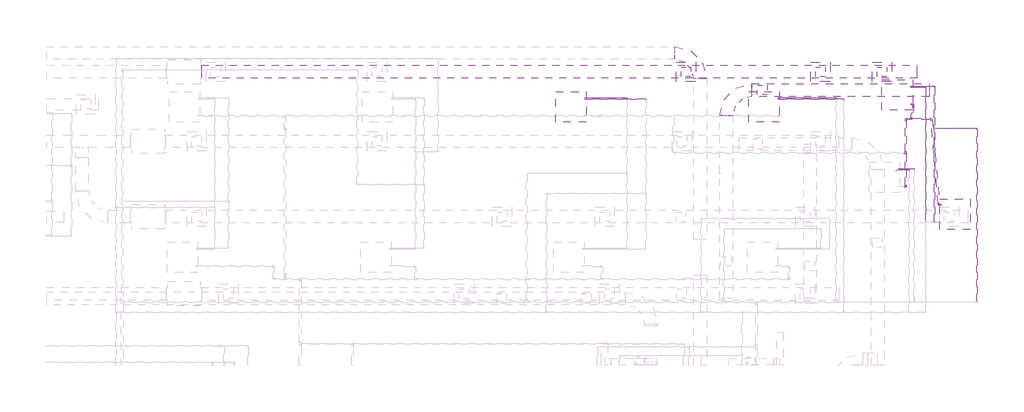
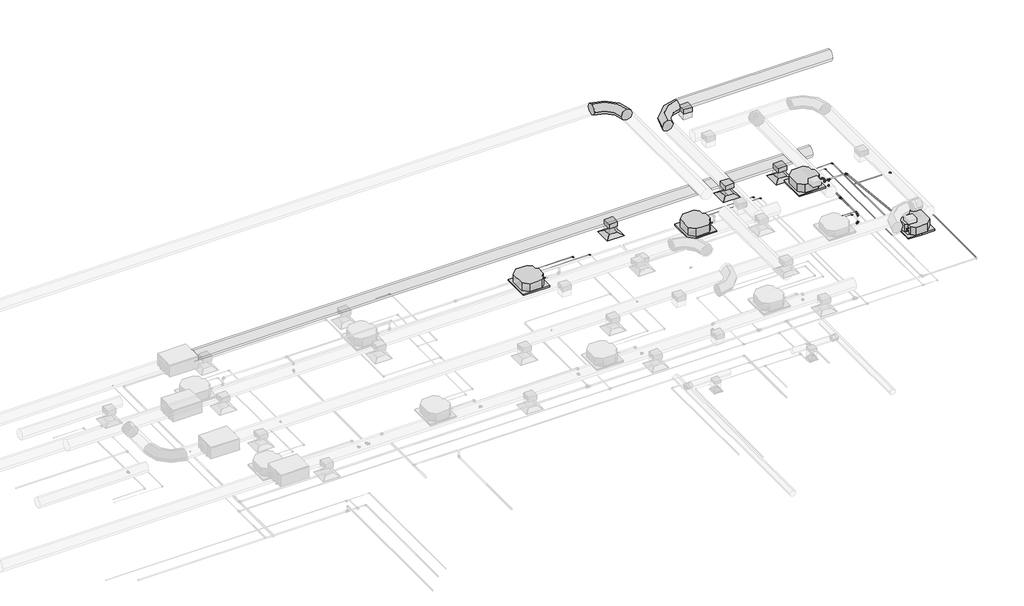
# One storey, part 21 of 21: 31 pipe fittings, 23 pipe segments, 6 duct fittings, 6 duct segments, 4 proxies, 3 air terminals.
"""IFC4 building model written with IfcOpenShell, lengths in millimetres."""

from ifc_helpers import new_model, si_unit, point, frame, frame_2d, origin, place, context, project, spatial, polyline, circle_curve, trimmed, segment, composite_curve, outline, extrude, transform, mapped, element, save
from components import air_terminal_ff221211, mechanical_equipment_53173f38, duct_fitting_95c1ddea, duct_fitting_2_d_33ab650d, pipe_fitting_144f4440, pipe_fitting_14eb6376, pipe_fitting_5aefb692, pipe_fitting_074f5d0f, pipe_fitting_57c65eee, pipe_fitting_a769a936, pipe_fitting_c900cfc2, pipe_fitting_16c020f5, pipe_fitting_fc585682, pipe_fitting_0e110a5f, pipe_fitting_afe73776, pipe_fitting_d3e019f1, pipe_fitting_501e5992, pipe_fitting_59d1f3e3, pipe_fitting_648138cd, pipe_fitting_b0e77d1d, pipe_fitting_c180495a

model = new_model("IFC4")

# Units and contexts
model_context = context("Model", 3, world=origin())
ifc_project = project(units=[si_unit("LENGTHUNIT", "METRE", prefix="MILLI")], contexts=[model_context])

# Site, building, storey
site = spatial("IfcSite", under=ifc_project)
building = spatial("IfcBuilding", under=site)
storey = spatial("IfcBuildingStorey", under=building, Name="Nível 1", Elevation=0.0)

# Air terminals
placement = place(None, origin())
air_terminal_shape = air_terminal_ff221211(model_context)
element("IfcAirTerminal", 1, ObjectType="M_Difusor de retorno : 600 x 600 Face 300 x 300 Conexão", at=placement, inside=storey, context=model_context, shape_type="MappedRepresentation", body=[
    mapped(air_terminal_shape, transform((25939.8406645, 9183.4261027, 3000.0), x_axis=(0.0, -1.0, 0.0), y_axis=(1.0, 0.0, 0.0), z_axis=(0.0, 0.0, 1.0))),
])
element("IfcAirTerminal", 2, ObjectType="M_Difusor de retorno : 600 x 600 Face 300 x 300 Conexão", at=placement, inside=storey, context=model_context, shape_type="MappedRepresentation", body=[
    mapped(air_terminal_shape, transform((21765.5206341, 9183.4261027, 3000.0), x_axis=(0.0, -1.0, 0.0), y_axis=(1.0, 0.0, 0.0), z_axis=(0.0, 0.0, 1.0))),
])
element("IfcAirTerminal", 3, ObjectType="M_Difusor de retorno : 600 x 600 Face 300 x 300 Conexão", at=placement, inside=storey, context=model_context, shape_type="MappedRepresentation", body=[
    mapped(air_terminal_shape, transform((27849.9180766, 9183.4261027, 3000.0), x_axis=(0.0, -1.0, 0.0), y_axis=(1.0, 0.0, 0.0), z_axis=(0.0, 0.0, 1.0))),
])

# Proxies
mechanical_equipment_shape = mechanical_equipment_53173f38(model_context)
element("IfcBuildingElementProxy", 4, Name="Midea_VRF_Indoor_4-way Cassette_MI-90(100,112,140)Q4_DHN1-D (2nd DC) : MI2-112Q4DHN1", ObjectType="Midea_VRF_Indoor_4-way Cassette_MI-90(100,112,140)Q4_DHN1-D (2nd DC) : MI2-112Q4DHN1", at=placement, inside=storey, context=model_context, shape_type="MappedRepresentation", body=[
    mapped(mechanical_equipment_shape, transform((18191.7954066, 8095.8048285, 3000.0), x_axis=(1.0, 0.0, 0.0), y_axis=(0.0, 1.0, 0.0), z_axis=(0.0, 0.0, 1.0))),
])
element("IfcBuildingElementProxy", 5, Name="Midea_VRF_Indoor_4-way Cassette_MI-90(100,112,140)Q4_DHN1-D (2nd DC) : MI2-112Q4DHN1", ObjectType="Midea_VRF_Indoor_4-way Cassette_MI-90(100,112,140)Q4_DHN1-D (2nd DC) : MI2-112Q4DHN1", at=placement, inside=storey, context=model_context, shape_type="MappedRepresentation", body=[
    mapped(mechanical_equipment_shape, transform((24191.7954066, 8095.8048285, 3000.0), x_axis=(1.0, 0.0, 0.0), y_axis=(0.0, 1.0, 0.0), z_axis=(0.0, 0.0, 1.0))),
])
element("IfcBuildingElementProxy", 6, Name="Midea_VRF_Indoor_4-way Cassette_MI-90(100,112,140)Q4_DHN1-D (2nd DC) : MI2-140Q4DHN1", ObjectType="Midea_VRF_Indoor_4-way Cassette_MI-90(100,112,140)Q4_DHN1-D (2nd DC) : MI2-140Q4DHN1", at=placement, inside=storey, context=model_context, shape_type="MappedRepresentation", body=[
    mapped(mechanical_equipment_shape, transform((28325.7656776, 8462.5801614, 3000.0), x_axis=(1.0, 0.0, 0.0), y_axis=(0.0, 1.0, 0.0), z_axis=(0.0, 0.0, 1.0))),
])
element("IfcBuildingElementProxy", 7, Name="Midea_VRF_Indoor_4-way Cassette_MI-90(100,112,140)Q4_DHN1-D (2nd DC) : MI2-140Q4DHN1", ObjectType="Midea_VRF_Indoor_4-way Cassette_MI-90(100,112,140)Q4_DHN1-D (2nd DC) : MI2-140Q4DHN1", at=placement, inside=storey, context=model_context, shape_type="MappedRepresentation", body=[
    mapped(mechanical_equipment_shape, transform((30114.7064473, 4758.5377408, 3000.0), x_axis=(-1.0, 0.0, 0.0), y_axis=(0.0, -1.0, 0.0), z_axis=(0.0, 0.0, 1.0))),
])

# Duct fittings
duct_fitting_shape = duct_fitting_95c1ddea(model_context)
element("IfcDuctFitting", 8, ObjectType="M_Encaixe de duto retangular : Padrão", at=placement, inside=storey, context=model_context, shape_type="MappedRepresentation", body=[
    mapped(duct_fitting_shape, transform((25939.8406645, 9183.4261027, 3421.0), x_axis=(0.0, 0.0, -1.0), y_axis=(-1.0, 0.0, 0.0), z_axis=(0.0, 1.0, 0.0))),
])
element("IfcDuctFitting", 9, ObjectType="M_Encaixe de duto retangular : Padrão", at=placement, inside=storey, context=model_context, shape_type="MappedRepresentation", body=[
    mapped(duct_fitting_shape, transform((21765.5206341, 9183.4261027, 3421.0), x_axis=(0.0, 0.0, -1.0), y_axis=(-1.0, 0.0, 0.0), z_axis=(0.0, 1.0, 0.0))),
])
element("IfcDuctFitting", 10, ObjectType="M_Encaixe de duto retangular : Padrão", at=placement, inside=storey, context=model_context, shape_type="MappedRepresentation", body=[
    mapped(duct_fitting_shape, transform((24131.0509329, 8616.6989842, 7301.0), x_axis=(0.0, 0.0, -1.0), y_axis=(1.0, 0.0, 0.0), z_axis=(0.0, -1.0, 0.0))),
])
element("IfcDuctFitting", 11, ObjectType="M_Encaixe de duto retangular : Padrão", at=placement, inside=storey, context=model_context, shape_type="MappedRepresentation", body=[
    mapped(duct_fitting_shape, transform((27849.9180766, 9183.4261027, 3421.0), x_axis=(0.0, 0.0, -1.0), y_axis=(-1.0, 0.0, 0.0), z_axis=(0.0, 1.0, 0.0))),
])
duct_fitting_2_d_shape = duct_fitting_2_d_33ab650d(model_context)
element("IfcDuctFitting", 12, ObjectType="M_Cotovelo redondo : 2 D", at=placement, inside=storey, context=model_context, shape_type="MappedRepresentation", body=[
    mapped(duct_fitting_2_d_shape, transform((23014.7064473, 8616.6989842, 7501.0), x_axis=(-1.0, 0.0, 0.0), y_axis=(0.0, -1.0, 0.0), z_axis=(0.0, 0.0, 1.0))),
])
element("IfcDuctFitting", 13, ObjectType="M_Cotovelo redondo : 2 D", at=placement, inside=storey, context=model_context, shape_type="MappedRepresentation", body=[
    mapped(duct_fitting_2_d_shape, transform((22212.1483041, 9769.8368648, 7501.0), x_axis=(0.0, 1.0, 0.0), y_axis=(-1.0, 0.0, 0.0), z_axis=(0.0, 0.0, 1.0))),
])

# Duct segments
element("IfcDuctSegment", 14, ObjectType="Torneiras / Raio curto", at=placement, inside=storey, context=model_context, shape_type="SweptSolid", body=[
    extrude(outline(composite_curve([segment(trimmed(circle_curve(frame_2d((9183.4261027, 3621.0)), 200.0), [point((8983.4261027, 3621.0))], [point((9183.4261027, 3821.0))], False, "CARTESIAN"), True, "CONTINUOUS"), segment(trimmed(circle_curve(frame_2d((9183.4261027, 3621.0)), 200.0), [point((9183.4261027, 3821.0))], [point((9383.4261027, 3621.0))], False, "CARTESIAN"), True, "CONTINUOUS"), segment(trimmed(circle_curve(frame_2d((9183.4261027, 3621.0)), 200.0), [point((9383.4261027, 3621.0))], [point((9183.4261027, 3421.0))], False, "CARTESIAN"), True, "CONTINUOUS"), segment(trimmed(circle_curve(frame_2d((9183.4261027, 3621.0)), 200.0), [point((9183.4261027, 3421.0))], [point((8983.4261027, 3621.0))], False, "CARTESIAN"), True, "CONTINUOUS")], self_intersect=False)), frame((6730.0801877, 0.0, 0.0), z_axis=(1.0, 0.0, 0.0), x_axis=(0.0, 1.0, 0.0)), (0.0, 0.0, 1.0), 22200.0),
])
element("IfcDuctSegment", 15, ObjectType="Raios cotovelos / torneiras", at=placement, inside=storey, context=model_context, shape_type="SweptSolid", body=[
    extrude(outline(polyline([(26089.8406645, 9033.4261027), (25789.8406645, 9033.4261027), (25789.8406645, 9333.4261027), (26089.8406645, 9333.4261027), (26089.8406645, 9033.4261027)])), frame((0.0, 0.0, 3101.6), z_axis=(0.0, 0.0, 1.0), x_axis=(1.0, 0.0, 0.0)), (0.0, 0.0, 1.0), 217.8),
])
element("IfcDuctSegment", 16, ObjectType="Raios cotovelos / torneiras", at=placement, inside=storey, context=model_context, shape_type="SweptSolid", body=[
    extrude(outline(polyline([(21915.5206341, 9033.4261027), (21615.5206341, 9033.4261027), (21615.5206341, 9333.4261027), (21915.5206341, 9333.4261027), (21915.5206341, 9033.4261027)])), frame((0.0, 0.0, 3101.6), z_axis=(0.0, 0.0, 1.0), x_axis=(1.0, 0.0, 0.0)), (0.0, 0.0, 1.0), 217.8),
])
element("IfcDuctSegment", 17, ObjectType="Torneiras / Raio curto", at=placement, inside=storey, context=model_context, shape_type="SweptSolid", body=[
    extrude(outline(composite_curve([segment(trimmed(circle_curve(frame_2d((8616.6989842, 7501.0)), 200.0), [point((8816.6989842, 7501.0))], [point((8616.6989842, 7301.0))], False, "CARTESIAN"), True, "CONTINUOUS"), segment(trimmed(circle_curve(frame_2d((8616.6989842, 7501.0)), 200.0), [point((8616.6989842, 7301.0))], [point((8416.6989842, 7501.0))], False, "CARTESIAN"), True, "CONTINUOUS"), segment(trimmed(circle_curve(frame_2d((8616.6989842, 7501.0)), 200.0), [point((8416.6989842, 7501.0))], [point((8616.6989842, 7701.0))], False, "CARTESIAN"), True, "CONTINUOUS"), segment(trimmed(circle_curve(frame_2d((8616.6989842, 7501.0)), 200.0), [point((8616.6989842, 7701.0))], [point((8816.6989842, 7501.0))], False, "CARTESIAN"), True, "CONTINUOUS")], self_intersect=False)), frame((23814.7064473, 0.0, 0.0), z_axis=(1.0, 0.0, 0.0), x_axis=(0.0, 1.0, 0.0)), (0.0, 0.0, 1.0), 5500.0),
])
element("IfcDuctSegment", 18, ObjectType="Raios cotovelos / torneiras", at=placement, inside=storey, context=model_context, shape_type="SweptSolid", body=[
    extrude(outline(polyline([(23981.0509329, 8766.6989842), (24281.0509329, 8766.6989842), (24281.0509329, 8466.6989842), (23981.0509329, 8466.6989842), (23981.0509329, 8766.6989842)])), frame((0.0, 0.0, 6981.6), z_axis=(0.0, 0.0, 1.0), x_axis=(1.0, 0.0, 0.0)), (0.0, 0.0, 1.0), 217.8),
])
element("IfcDuctSegment", 19, ObjectType="Raios cotovelos / torneiras", at=placement, inside=storey, context=model_context, shape_type="SweptSolid", body=[
    extrude(outline(polyline([(27999.9180766, 9033.4261027), (27699.9180766, 9033.4261027), (27699.9180766, 9333.4261027), (27999.9180766, 9333.4261027), (27999.9180766, 9033.4261027)])), frame((0.0, 0.0, 3101.6), z_axis=(0.0, 0.0, 1.0), x_axis=(1.0, 0.0, 0.0)), (0.0, 0.0, 1.0), 217.8),
])

# Pipe fittings
pipe_fitting_shape = pipe_fitting_144f4440(model_context)
element("IfcPipeFitting", 20, ObjectType="Cotovelo - PVC - CW : Padrão", at=placement, inside=storey, context=model_context, shape_type="MappedRepresentation", body=[
    mapped(pipe_fitting_shape, transform((28589.1842863, 5616.8040024, 3500.0), x_axis=(0.0, 0.0, 1.0), y_axis=(0.0, 1.0, 0.0), z_axis=(-1.0, 0.0, 0.0))),
])
element("IfcPipeFitting", 21, ObjectType="Cotovelo - PVC - CW : Padrão", at=placement, inside=storey, context=model_context, shape_type="MappedRepresentation", body=[
    mapped(pipe_fitting_shape, transform((28589.1842863, 7716.8040024, 3500.0), x_axis=(-1.0, 0.0, 0.0), y_axis=(0.0, -1.0, 0.0), z_axis=(0.0, 0.0, 1.0))),
])
element("IfcPipeFitting", 22, ObjectType="Cotovelo - PVC - CW : Padrão", at=placement, inside=storey, context=model_context, shape_type="MappedRepresentation", body=[
    mapped(pipe_fitting_shape, transform((29619.3066998, 5043.5377408, 3252.3085101), x_axis=(-1.0, 0.0, 0.0), y_axis=(0.0, 0.0, 1.0), z_axis=(0.0, 1.0, 0.0))),
])
element("IfcPipeFitting", 23, ObjectType="Cotovelo - PVC - CW : Padrão", at=placement, inside=storey, context=model_context, shape_type="MappedRepresentation", body=[
    mapped(pipe_fitting_shape, transform((29619.3066998, 5043.5377408, 3500.0), x_axis=(0.0, 0.0, 1.0), y_axis=(-0.08576567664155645, 0.9963153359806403, 0.0), z_axis=(-0.9963153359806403, -0.08576567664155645, 0.0))),
])
element("IfcPipeFitting", 24, ObjectType="Cotovelo - PVC - CW : Padrão", at=placement, inside=storey, context=model_context, shape_type="MappedRepresentation", body=[
    mapped(pipe_fitting_shape, transform((28821.165425, 8177.5801614, 3252.3085101), x_axis=(0.0, 1.0, 0.0), y_axis=(-1.0, 0.0, 0.0), z_axis=(0.0, 0.0, 1.0))),
])
element("IfcPipeFitting", 25, ObjectType="Cotovelo - PVC - CW : Padrão", at=placement, inside=storey, context=model_context, shape_type="MappedRepresentation", body=[
    mapped(pipe_fitting_shape, transform((28754.4093881, 7716.8040024, 3252.3), x_axis=(0.0, 0.0, -1.0), y_axis=(0.17923525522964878, 0.9838062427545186, 0.0), z_axis=(0.9838062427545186, -0.17923525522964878, 0.0))),
])
pipe_fitting_2_shape = pipe_fitting_14eb6376(model_context)
element("IfcPipeFitting", 26, ObjectType="Tê de redução - PVC - CW : Padrão", at=placement, inside=storey, context=model_context, shape_type="MappedRepresentation", body=[
    mapped(pipe_fitting_2_shape, transform((28754.4093881, 7716.8040024, 3500.0), x_axis=(-1.0, 0.0, 0.0), y_axis=(0.0, 0.0, 1.0), z_axis=(0.0, 1.0, 0.0))),
])
element("IfcPipeFitting", 27, ObjectType="Tê de redução - PVC - CW : Padrão", at=placement, inside=storey, context=model_context, shape_type="MappedRepresentation", body=[
    mapped(pipe_fitting_2_shape, transform((28589.1842863, 6666.8040024, 3500.0), x_axis=(0.0, -1.0, 0.0), y_axis=(1.0, 0.0, 0.0), z_axis=(0.0, 0.0, 1.0))),
])
pipe_fitting_3_shape = pipe_fitting_5aefb692(model_context)
element("IfcPipeFitting", 28, ObjectType="Cotovelo - Soldado - CU : Padrão", at=placement, inside=storey, context=model_context, shape_type="MappedRepresentation", body=[
    mapped(pipe_fitting_3_shape, transform((30802.8273208, 7425.308811, 3236.0619958), x_axis=(0.0, 1.0, 0.0), y_axis=(-1.0, 0.0, 0.0), z_axis=(0.0, 0.0, 1.0))),
])
pipe_fitting_4_shape = pipe_fitting_074f5d0f(model_context)
element("IfcPipeFitting", 29, ObjectType="Cotovelo - PVC - CW : Padrão", at=placement, inside=storey, context=model_context, shape_type="MappedRepresentation", body=[
    mapped(pipe_fitting_4_shape, transform((28589.1842863, 5616.8040024, 3182.3), x_axis=(0.9999999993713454, 0.0, -3.545855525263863e-05), y_axis=(3.545855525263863e-05, 0.0, 0.9999999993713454), z_axis=(0.0, -1.0, 0.0))),
])
pipe_fitting_5_shape = pipe_fitting_57c65eee(model_context)
element("IfcPipeFitting", 30, ObjectType="Cotovelo - PVC - CW : Padrão", at=placement, inside=storey, context=model_context, shape_type="MappedRepresentation", body=[
    mapped(pipe_fitting_5_shape, transform((29389.1842863, 7716.8040024, 3500.0), x_axis=(-0.08576567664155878, 0.99631533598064, 0.0), y_axis=(-0.99631533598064, -0.08576567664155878, 0.0), z_axis=(0.0, 0.0, 1.0))),
])
pipe_fitting_6_shape = pipe_fitting_a769a936(model_context)
element("IfcPipeFitting", 31, ObjectType="Cotovelo - PVC - CW : Padrão", at=placement, inside=storey, context=model_context, shape_type="MappedRepresentation", body=[
    mapped(pipe_fitting_6_shape, transform((28821.165425, 8083.2219029, 3252.3), x_axis=(0.17923525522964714, 0.9838062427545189, 0.0), y_axis=(-0.983805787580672, 0.17923517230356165, 0.0009619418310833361), z_axis=(0.0009463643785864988, -0.00017241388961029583, 0.9999995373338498))),
])
pipe_fitting_7_shape = pipe_fitting_c900cfc2(model_context)
element("IfcPipeFitting", 32, ObjectType="Bucha de redução reta - Soldada - CU : Padrão", at=placement, inside=storey, context=model_context, shape_type="MappedRepresentation", body=[
    mapped(pipe_fitting_7_shape, transform((24616.7954066, 8369.0156421, 3252.3085101), x_axis=(1.0, 0.0, 0.0), y_axis=(0.0, 1.0, 0.0), z_axis=(0.0, 0.0, 1.0))),
])
pipe_fitting_8_shape = pipe_fitting_16c020f5(model_context)
element("IfcPipeFitting", 33, ObjectType="Cotovelo - Soldado - CU : Padrão", at=placement, inside=storey, context=model_context, shape_type="MappedRepresentation", body=[
    mapped(pipe_fitting_8_shape, transform((26429.4543066, 8369.0156421, 3252.3085101), x_axis=(0.0, 0.9999976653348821, 0.002160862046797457), y_axis=(-1.0000000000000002, 0.0, 0.0), z_axis=(0.0, -0.002160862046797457, 0.9999976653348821))),
])
element("IfcPipeFitting", 34, ObjectType="Cotovelo - Soldado - CU : Padrão", at=placement, inside=storey, context=model_context, shape_type="MappedRepresentation", body=[
    mapped(pipe_fitting_8_shape, transform((28849.1842864, 6175.0148161, 3182.300014), x_axis=(0.0, 1.0, 0.0), y_axis=(-0.9999999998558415, 0.0, 1.6979899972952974e-05), z_axis=(1.6979899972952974e-05, 0.0, 0.9999999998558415))),
])
pipe_fitting_9_shape = pipe_fitting_fc585682(model_context)
element("IfcPipeFitting", 35, ObjectType="Bucha de redução reta - Soldada - CU : Padrão", at=placement, inside=storey, context=model_context, shape_type="MappedRepresentation", body=[
    mapped(pipe_fitting_9_shape, transform((18616.7954066, 8369.0156421, 3252.3085101), x_axis=(1.0, 0.0, 0.0), y_axis=(0.0, 1.0, 0.0), z_axis=(0.0, 0.0, 1.0))),
])
element("IfcPipeFitting", 36, ObjectType="Bucha de redução reta - Soldada - CU : Padrão", at=placement, inside=storey, context=model_context, shape_type="MappedRepresentation", body=[
    mapped(pipe_fitting_9_shape, transform((28750.7656776, 8735.790975, 3252.3085101), x_axis=(1.0, 0.0, 0.0), y_axis=(0.0, 1.0, 0.0), z_axis=(0.0, 0.0, 1.0))),
])
pipe_fitting_10_shape = pipe_fitting_0e110a5f(model_context)
element("IfcPipeFitting", 37, ObjectType="Cotovelo - Soldado - CU : Padrão", at=placement, inside=storey, context=model_context, shape_type="MappedRepresentation", body=[
    mapped(pipe_fitting_10_shape, transform((19932.4995645, 8369.0156421, 3252.3085101), x_axis=(0.0, 1.0, 0.0), y_axis=(-1.0, 0.0, 0.0), z_axis=(0.0, 0.0, 1.0))),
])
element("IfcPipeFitting", 38, ObjectType="Cotovelo - Soldado - CU : Padrão", at=placement, inside=storey, context=model_context, shape_type="MappedRepresentation", body=[
    mapped(pipe_fitting_10_shape, transform((29476.6422474, 8735.790975, 3252.3), x_axis=(0.0, 0.9999999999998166, -6.057547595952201e-07), y_axis=(-0.9999999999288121, 7.227957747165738e-12, 1.1932151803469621e-05), z_axis=(1.193215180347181e-05, 6.057547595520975e-07, 0.9999999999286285))),
])
pipe_fitting_11_shape = pipe_fitting_afe73776(model_context)
element("IfcPipeFitting", 39, ObjectType="Bucha de redução reta - Soldada - CU : Padrão", at=placement, inside=storey, context=model_context, shape_type="MappedRepresentation", body=[
    mapped(pipe_fitting_11_shape, transform((19932.4995645, 8337.5566421, 3252.3085101), x_axis=(0.0, -1.0, 0.0), y_axis=(1.0, 0.0, 0.0), z_axis=(0.0, 0.0, 1.0))),
])
element("IfcPipeFitting", 40, ObjectType="Bucha de redução reta - Soldada - CU : Padrão", at=placement, inside=storey, context=model_context, shape_type="MappedRepresentation", body=[
    mapped(pipe_fitting_11_shape, transform((29476.6422474, 8704.331975, 3252.3000191), x_axis=(0.0, -0.9999999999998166, 6.057547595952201e-07), y_axis=(0.9999999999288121, -7.227957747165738e-12, -1.1932151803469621e-05), z_axis=(1.193215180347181e-05, 6.057547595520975e-07, 0.9999999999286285))),
])
pipe_fitting_12_shape = pipe_fitting_d3e019f1(model_context)
element("IfcPipeFitting", 41, ObjectType="Bucha de redução reta - Soldada - CU : Padrão", at=placement, inside=storey, context=model_context, shape_type="MappedRepresentation", body=[
    mapped(pipe_fitting_12_shape, transform((28291.1466083, 6104.3041379, 3182.3085101), x_axis=(-1.0, 0.0, 0.0), y_axis=(0.0, -1.0, 0.0), z_axis=(0.0, 0.0, 1.0))),
])
pipe_fitting_13_shape = pipe_fitting_501e5992(model_context)
element("IfcPipeFitting", 42, ObjectType="Bucha de redução reta - Soldada - CU : Padrão", at=placement, inside=storey, context=model_context, shape_type="MappedRepresentation", body=[
    mapped(pipe_fitting_13_shape, transform((28361.8431864, 6175.0148161, 3182.308289), x_axis=(-0.9999999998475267, 0.0, 1.746271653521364e-05), y_axis=(0.0, -1.0, 0.0), z_axis=(1.746271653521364e-05, 0.0, 0.9999999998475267))),
])
pipe_fitting_14_shape = pipe_fitting_59d1f3e3(model_context)
element("IfcPipeFitting", 43, ObjectType="Bucha de redução reta - Soldada - CU : Padrão", at=placement, inside=storey, context=model_context, shape_type="MappedRepresentation", body=[
    mapped(pipe_fitting_14_shape, transform((18616.7954066, 8335.2132003, 3146.8446487), x_axis=(1.0, 0.0, 0.0), y_axis=(0.0, 1.0, 0.0), z_axis=(0.0, 0.0, 1.0))),
])
element("IfcPipeFitting", 44, ObjectType="Bucha de redução reta - Soldada - CU : Padrão", at=placement, inside=storey, context=model_context, shape_type="MappedRepresentation", body=[
    mapped(pipe_fitting_14_shape, transform((28750.7656776, 8701.9885332, 3146.8446487), x_axis=(1.0, 0.0, 0.0), y_axis=(0.0, 1.0, 0.0), z_axis=(0.0, 0.0, 1.0))),
])
pipe_fitting_15_shape = pipe_fitting_648138cd(model_context)
element("IfcPipeFitting", 45, ObjectType="Cotovelo - Soldado - CU : Padrão", at=placement, inside=storey, context=model_context, shape_type="MappedRepresentation", body=[
    mapped(pipe_fitting_15_shape, transform((20526.4698012, 8335.2132003, 3146.7009439), x_axis=(0.0, 1.0, 0.0), y_axis=(-0.9999999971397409, 0.0, 7.563410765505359e-05), z_axis=(7.563410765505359e-05, 0.0, 0.9999999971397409))),
])
element("IfcPipeFitting", 46, ObjectType="Cotovelo - Soldado - CU : Padrão", at=placement, inside=storey, context=model_context, shape_type="MappedRepresentation", body=[
    mapped(pipe_fitting_15_shape, transform((29207.8387481, 8701.9885332, 3146.8), x_axis=(0.0, 1.0, 0.0), y_axis=(-0.9999999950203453, 0.0, 9.979633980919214e-05), z_axis=(9.979633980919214e-05, 0.0, 0.9999999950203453))),
])
pipe_fitting_16_shape = pipe_fitting_b0e77d1d(model_context)
element("IfcPipeFitting", 47, ObjectType="Bucha de redução reta - Soldada - CU : Padrão", at=placement, inside=storey, context=model_context, shape_type="MappedRepresentation", body=[
    mapped(pipe_fitting_16_shape, transform((24616.7954066, 8335.2132003, 3146.8446487), x_axis=(1.0, 0.0, 0.0), y_axis=(0.0, 1.0, 0.0), z_axis=(0.0, 0.0, 1.0))),
])
element("IfcPipeFitting", 48, ObjectType="Bucha de redução reta - Soldada - CU : Padrão", at=placement, inside=storey, context=model_context, shape_type="MappedRepresentation", body=[
    mapped(pipe_fitting_16_shape, transform((28349.1842864, 6141.2123742, 3146.8446487), x_axis=(1.0, 0.0, 0.0), y_axis=(0.0, 1.0, 0.0), z_axis=(0.0, 0.0, 1.0))),
])
pipe_fitting_17_shape = pipe_fitting_c180495a(model_context)
element("IfcPipeFitting", 49, ObjectType="Cotovelo - Soldado - CU : Padrão", at=placement, inside=storey, context=model_context, shape_type="MappedRepresentation", body=[
    mapped(pipe_fitting_17_shape, transform((26666.4744981, 8335.2132003, 3146.6588858), x_axis=(0.0, 0.9999999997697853, -2.145762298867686e-05), y_axis=(-0.9999999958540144, 1.9539367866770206e-09, 9.106026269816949e-05), z_axis=(9.10602627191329e-05, 2.1457622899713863e-05, 0.9999999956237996))),
])
element("IfcPipeFitting", 50, ObjectType="Cotovelo - Soldado - CU : Padrão", at=placement, inside=storey, context=model_context, shape_type="MappedRepresentation", body=[
    mapped(pipe_fitting_17_shape, transform((28689.1842835, 6141.2123742, 3146.8), x_axis=(0.0, 1.0, 0.0), y_axis=(-0.9999999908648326, 0.0, 0.00013516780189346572), z_axis=(0.00013516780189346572, 0.0, 0.9999999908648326))),
])

# Pipe segments
element("IfcPipeSegment", 51, ObjectType="Tubos de cobre HVAC", at=placement, inside=storey, context=model_context, shape_type="SweptSolid", body=[
    extrude(outline(composite_curve([segment(trimmed(circle_curve(frame_2d((8369.0156421, 3252.3085101)), 9.525), [point((8359.4906421, 3252.3085101))], [point((8369.0156421, 3261.8335101))], False, "CARTESIAN"), True, "CONTINUOUS"), segment(trimmed(circle_curve(frame_2d((8369.0156421, 3252.3085101)), 9.525), [point((8369.0156421, 3261.8335101))], [point((8378.5406421, 3252.3085101))], False, "CARTESIAN"), True, "CONTINUOUS"), segment(trimmed(circle_curve(frame_2d((8369.0156421, 3252.3085101)), 9.525), [point((8378.5406421, 3252.3085101))], [point((8369.0156421, 3242.7835101))], False, "CARTESIAN"), True, "CONTINUOUS"), segment(trimmed(circle_curve(frame_2d((8369.0156421, 3252.3085101)), 9.525), [point((8369.0156421, 3242.7835101))], [point((8359.4906421, 3252.3085101))], False, "CARTESIAN"), True, "CONTINUOUS")], self_intersect=False)), frame((18629.4684066, 0.0, 0.0), z_axis=(1.0, 0.0, 0.0), x_axis=(0.0, 1.0, 0.0)), (0.0, 0.0, 1.0), 1271.5721579),
])
element("IfcPipeSegment", 52, ObjectType="Tubos de cobre HVAC", at=placement, inside=storey, context=model_context, shape_type="SweptSolid", body=[
    extrude(outline(composite_curve([segment(trimmed(circle_curve(frame_2d((8369.0156421, 3252.3085101)), 7.935), [point((8361.0806421, 3252.3085101))], [point((8369.0156421, 3260.2435101))], False, "CARTESIAN"), True, "CONTINUOUS"), segment(trimmed(circle_curve(frame_2d((8369.0156421, 3252.3085101)), 7.935), [point((8369.0156421, 3260.2435101))], [point((8376.9506421, 3252.3085101))], False, "CARTESIAN"), True, "CONTINUOUS"), segment(trimmed(circle_curve(frame_2d((8369.0156421, 3252.3085101)), 7.935), [point((8376.9506421, 3252.3085101))], [point((8369.0156421, 3244.3735101))], False, "CARTESIAN"), True, "CONTINUOUS"), segment(trimmed(circle_curve(frame_2d((8369.0156421, 3252.3085101)), 7.935), [point((8369.0156421, 3244.3735101))], [point((8361.0806421, 3252.3085101))], False, "CARTESIAN"), True, "CONTINUOUS")], self_intersect=False)), frame((24629.4543066, 0.0, 0.0), z_axis=(1.0, 0.0, 0.0), x_axis=(0.0, 1.0, 0.0)), (0.0, 0.0, 1.0), 1771.0214),
])
element("IfcPipeSegment", 53, ObjectType="Tubos de cobre HVAC", at=placement, inside=storey, context=model_context, shape_type="SweptSolid", body=[
    extrude(outline(composite_curve([segment(trimmed(circle_curve(frame_2d((0.0, -4.76)), 4.76), [point((-4.76, -4.76))], [point((0.0, 0.0))], False, "CARTESIAN"), True, "CONTINUOUS"), segment(trimmed(circle_curve(frame_2d((0.0, -4.76)), 4.76), [point((0.0, 0.0))], [point((4.76, -4.76))], False, "CARTESIAN"), True, "CONTINUOUS"), segment(trimmed(circle_curve(frame_2d((0.0, -4.76)), 4.76), [point((4.76, -4.76))], [point((0.0, -9.52))], False, "CARTESIAN"), True, "CONTINUOUS"), segment(trimmed(circle_curve(frame_2d((0.0, -4.76)), 4.76), [point((0.0, -9.52))], [point((-4.76, -4.76))], False, "CARTESIAN"), True, "CONTINUOUS")], self_intersect=False)), frame((26642.0740648, 8335.2132003, 3141.9011077), z_axis=(-0.9999999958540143, 0.0, 9.106026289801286e-05), x_axis=(0.0, 1.0, 0.0)), (0.0, 0.0, 1.0), 2015.6),
])
element("IfcPipeSegment", 54, ObjectType="Tubos de cobre HVAC", at=placement, inside=storey, context=model_context, shape_type="SweptSolid", body=[
    extrude(outline(composite_curve([segment(trimmed(circle_curve(frame_2d((0.0, -4.76)), 4.76), [point((-4.76, -4.76))], [point((0.0, 0.0))], False, "CARTESIAN"), True, "CONTINUOUS"), segment(trimmed(circle_curve(frame_2d((0.0, -4.76)), 4.76), [point((0.0, 0.0))], [point((4.76, -4.76))], False, "CARTESIAN"), True, "CONTINUOUS"), segment(trimmed(circle_curve(frame_2d((0.0, -4.76)), 4.76), [point((4.76, -4.76))], [point((0.0, -9.52))], False, "CARTESIAN"), True, "CONTINUOUS"), segment(trimmed(circle_curve(frame_2d((0.0, -4.76)), 4.76), [point((0.0, -9.52))], [point((-4.76, -4.76))], False, "CARTESIAN"), True, "CONTINUOUS")], self_intersect=False)), frame((20502.4438412, 8335.2132003, 3141.9427611), z_axis=(-0.9999999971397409, 0.0, 7.563410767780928e-05), x_axis=(0.0, 1.0, 0.0)), (0.0, 0.0, 1.0), 1875.9744),
])
element("IfcPipeSegment", 55, ObjectType="Tubos de cobre HVAC", at=placement, inside=storey, context=model_context, shape_type="SweptSolid", body=[
    extrude(outline(composite_curve([segment(trimmed(circle_curve(frame_2d((0.0, -7.935)), 7.935), [point((-7.935, -7.935))], [point((0.0, 0.0))], False, "CARTESIAN"), True, "CONTINUOUS"), segment(trimmed(circle_curve(frame_2d((0.0, -7.935)), 7.935), [point((0.0, 0.0))], [point((7.935, -7.935))], False, "CARTESIAN"), True, "CONTINUOUS"), segment(trimmed(circle_curve(frame_2d((0.0, -7.935)), 7.935), [point((7.935, -7.935))], [point((0.0, -15.87))], False, "CARTESIAN"), True, "CONTINUOUS"), segment(trimmed(circle_curve(frame_2d((0.0, -7.935)), 7.935), [point((0.0, -15.87))], [point((-7.935, -7.935))], False, "CARTESIAN"), True, "CONTINUOUS")], self_intersect=False)), frame((28820.2055516, 6175.0148161, 3174.365506), z_axis=(-0.9999999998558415, 0.0, 1.697989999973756e-05), x_axis=(0.0, 1.0, 0.0)), (0.0, 0.0, 1.0), 458.3625),
])
element("IfcPipeSegment", 56, ObjectType="Tubos de cobre HVAC", at=placement, inside=storey, context=model_context, shape_type="SweptSolid", body=[
    extrude(outline(composite_curve([segment(trimmed(circle_curve(frame_2d((0.0, -4.76)), 4.76), [point((-4.76, -4.76))], [point((0.0, 0.0))], False, "CARTESIAN"), True, "CONTINUOUS"), segment(trimmed(circle_curve(frame_2d((0.0, -4.76)), 4.76), [point((0.0, 0.0))], [point((4.76, -4.76))], False, "CARTESIAN"), True, "CONTINUOUS"), segment(trimmed(circle_curve(frame_2d((0.0, -4.76)), 4.76), [point((4.76, -4.76))], [point((0.0, -9.5200001))], False, "CARTESIAN"), True, "CONTINUOUS"), segment(trimmed(circle_curve(frame_2d((0.0, -4.76)), 4.76), [point((0.0, -9.5200001))], [point((-4.76, -4.76))], False, "CARTESIAN"), True, "CONTINUOUS")], self_intersect=False)), frame((28664.7836403, 6141.2123742, 3142.0432981), z_axis=(-0.9999999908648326, 0.0, 0.00013516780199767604), x_axis=(0.0, 1.0, 0.0)), (0.0, 0.0, 1.0), 305.9209001),
])
element("IfcPipeSegment", 57, ObjectType="Tubos de cobre HVAC", at=placement, inside=storey, context=model_context, shape_type="SweptSolid", body=[
    extrude(outline(composite_curve([segment(trimmed(circle_curve(frame_2d((3236.0619958, 30802.8273208)), 11.11), [point((3236.0619958, 30813.9373208))], [point((3247.1719958, 30802.8273208))], False, "CARTESIAN"), True, "CONTINUOUS"), segment(trimmed(circle_curve(frame_2d((3236.0619958, 30802.8273208)), 11.11), [point((3247.1719958, 30802.8273208))], [point((3236.0619958, 30791.7173208))], False, "CARTESIAN"), True, "CONTINUOUS"), segment(trimmed(circle_curve(frame_2d((3236.0619958, 30802.8273208)), 11.11), [point((3236.0619958, 30791.7173208))], [point((3224.9519958, 30802.8273208))], False, "CARTESIAN"), True, "CONTINUOUS"), segment(trimmed(circle_curve(frame_2d((3236.0619958, 30802.8273208)), 11.11), [point((3224.9519958, 30802.8273208))], [point((3236.0619958, 30813.9373208))], False, "CARTESIAN"), True, "CONTINUOUS")], self_intersect=False)), frame((0.0, 2059.240411, 0.0), z_axis=(0.0, 1.0, 0.0), x_axis=(0.0, 0.0, 1.0)), (0.0, 0.0, 1.0), 5332.1368),
])
element("IfcPipeSegment", 58, ObjectType="Tubos de cobre HVAC", at=placement, inside=storey, context=model_context, shape_type="SweptSolid", body=[
    extrude(outline(composite_curve([segment(trimmed(circle_curve(frame_2d((3252.3025572, 29476.6422474)), 7.935), [point((3252.3025572, 29484.5772474))], [point((3260.2375572, 29476.6422474))], False, "CARTESIAN"), True, "CONTINUOUS"), segment(trimmed(circle_curve(frame_2d((3252.3025572, 29476.6422474)), 7.935), [point((3260.2375572, 29476.6422474))], [point((3252.3025572, 29468.7072474))], False, "CARTESIAN"), True, "CONTINUOUS"), segment(trimmed(circle_curve(frame_2d((3252.3025572, 29476.6422474)), 7.935), [point((3252.3025572, 29468.7072474))], [point((3244.3675572, 29476.6422474))], False, "CARTESIAN"), True, "CONTINUOUS"), segment(trimmed(circle_curve(frame_2d((3252.3025572, 29476.6422474)), 7.935), [point((3244.3675572, 29476.6422474))], [point((3252.3025572, 29484.5772474))], False, "CARTESIAN"), True, "CONTINUOUS")], self_intersect=False)), frame((0.0, 4514.3055271, 0.0), z_axis=(0.0, 1.0, 0.0), x_axis=(0.0, 0.0, 1.0)), (0.0, 0.0, 1.0), 4177.3675479),
])
element("IfcPipeSegment", 59, ObjectType="Tubos de cobre HVAC", at=placement, inside=storey, context=model_context, shape_type="SweptSolid", body=[
    extrude(outline(composite_curve([segment(trimmed(circle_curve(frame_2d((0.0, -9.525)), 9.525), [point((-9.525, -9.525))], [point((0.0, 0.0))], False, "CARTESIAN"), True, "CONTINUOUS"), segment(trimmed(circle_curve(frame_2d((0.0, -9.525)), 9.525), [point((0.0, 0.0))], [point((9.525, -9.525))], False, "CARTESIAN"), True, "CONTINUOUS"), segment(trimmed(circle_curve(frame_2d((0.0, -9.525)), 9.525), [point((9.525, -9.525))], [point((0.0, -19.05))], False, "CARTESIAN"), True, "CONTINUOUS"), segment(trimmed(circle_curve(frame_2d((0.0, -9.525)), 9.525), [point((0.0, -19.05))], [point((-9.525, -9.525))], False, "CARTESIAN"), True, "CONTINUOUS")], self_intersect=False)), frame((29445.1831337, 8735.790975, 3242.7753754), z_axis=(-0.999999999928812, 0.0, 1.1932151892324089e-05), x_axis=(0.0, 1.0, 0.0)), (0.0, 0.0, 1.0), 681.7445698),
])
element("IfcPipeSegment", 60, ObjectType="Tubos de cobre HVAC", at=placement, inside=storey, context=model_context, shape_type="SweptSolid", body=[
    extrude(outline(composite_curve([segment(trimmed(circle_curve(frame_2d((7425.308811, 3236.0619958)), 11.11), [point((7436.418811, 3236.0619958))], [point((7425.308811, 3224.9519958))], False, "CARTESIAN"), True, "CONTINUOUS"), segment(trimmed(circle_curve(frame_2d((7425.308811, 3236.0619958)), 11.11), [point((7425.308811, 3224.9519958))], [point((7414.198811, 3236.0619958))], False, "CARTESIAN"), True, "CONTINUOUS"), segment(trimmed(circle_curve(frame_2d((7425.308811, 3236.0619958)), 11.11), [point((7414.198811, 3236.0619958))], [point((7425.308811, 3247.1719958))], False, "CARTESIAN"), True, "CONTINUOUS"), segment(trimmed(circle_curve(frame_2d((7425.308811, 3236.0619958)), 11.11), [point((7425.308811, 3247.1719958))], [point((7436.418811, 3236.0619958))], False, "CARTESIAN"), True, "CONTINUOUS")], self_intersect=False)), frame((29522.8273208, 0.0, 0.0), z_axis=(1.0, 0.0, 0.0), x_axis=(0.0, 1.0, 0.0)), (0.0, 0.0, 1.0), 1246.0684),
])
element("IfcPipeSegment", 61, ObjectType="Tubos de cobre HVAC", at=placement, inside=storey, context=model_context, shape_type="SweptSolid", body=[
    extrude(outline(composite_curve([segment(trimmed(circle_curve(frame_2d((3146.8, 29207.8387481)), 4.76), [point((3146.8, 29212.5987481))], [point((3151.56, 29207.8387481))], False, "CARTESIAN"), True, "CONTINUOUS"), segment(trimmed(circle_curve(frame_2d((3146.8, 29207.8387481)), 4.76), [point((3151.56, 29207.8387481))], [point((3146.8, 29203.0787481))], False, "CARTESIAN"), True, "CONTINUOUS"), segment(trimmed(circle_curve(frame_2d((3146.8, 29207.8387481)), 4.76), [point((3146.8, 29203.0787481))], [point((3142.04, 29207.8387481))], False, "CARTESIAN"), True, "CONTINUOUS"), segment(trimmed(circle_curve(frame_2d((3146.8, 29207.8387481)), 4.76), [point((3142.04, 29207.8387481))], [point((3146.8, 29212.5987481))], False, "CARTESIAN"), True, "CONTINUOUS")], self_intersect=False)), frame((0.0, 4541.6529689, 0.0), z_axis=(0.0, 1.0, 0.0), x_axis=(0.0, 0.0, 1.0)), (0.0, 0.0, 1.0), 4136.3099643),
])
element("IfcPipeSegment", 62, ObjectType="Tubos de cobre HVAC", at=placement, inside=storey, context=model_context, shape_type="SweptSolid", body=[
    extrude(outline(composite_curve([segment(trimmed(circle_curve(frame_2d((0.0, -4.76)), 4.76), [point((-4.76, -4.76))], [point((0.0, 0.0))], False, "CARTESIAN"), True, "CONTINUOUS"), segment(trimmed(circle_curve(frame_2d((0.0, -4.76)), 4.76), [point((0.0, 0.0))], [point((4.76, -4.76))], False, "CARTESIAN"), True, "CONTINUOUS"), segment(trimmed(circle_curve(frame_2d((0.0, -4.76)), 4.76), [point((4.76, -4.76))], [point((0.0, -9.5199999))], False, "CARTESIAN"), True, "CONTINUOUS"), segment(trimmed(circle_curve(frame_2d((0.0, -4.76)), 4.76), [point((0.0, -9.5199999))], [point((-4.76, -4.76))], False, "CARTESIAN"), True, "CONTINUOUS")], self_intersect=False)), frame((29183.8126732, 8701.9885332, 3142.0423977), z_axis=(-0.9999999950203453, 0.0, 9.979633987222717e-05), x_axis=(0.0, 1.0, 0.0)), (0.0, 0.0, 1.0), 423.3730728),
])
element("IfcPipeSegment", 63, ObjectType="Plástico", at=placement, inside=storey, context=model_context, shape_type="SweptSolid", body=[
    extrude(outline(composite_curve([segment(trimmed(circle_curve(frame_2d((3500.0, 28589.1842863)), 20.0), [point((3500.0, 28609.1842863))], [point((3520.0, 28589.1842863))], False, "CARTESIAN"), True, "CONTINUOUS"), segment(trimmed(circle_curve(frame_2d((3500.0, 28589.1842863)), 20.0), [point((3520.0, 28589.1842863))], [point((3500.0, 28569.1842863))], False, "CARTESIAN"), True, "CONTINUOUS"), segment(trimmed(circle_curve(frame_2d((3500.0, 28589.1842863)), 20.0), [point((3500.0, 28569.1842863))], [point((3480.0, 28589.1842863))], False, "CARTESIAN"), True, "CONTINUOUS"), segment(trimmed(circle_curve(frame_2d((3500.0, 28589.1842863)), 20.0), [point((3480.0, 28589.1842863))], [point((3500.0, 28609.1842863))], False, "CARTESIAN"), True, "CONTINUOUS")], self_intersect=False)), frame((0.0, 6710.0540024, 0.0), z_axis=(0.0, 1.0, 0.0), x_axis=(0.0, 0.0, 1.0)), (0.0, 0.0, 1.0), 961.75),
])
element("IfcPipeSegment", 64, ObjectType="Plástico", at=placement, inside=storey, context=model_context, shape_type="SweptSolid", body=[
    extrude(outline(composite_curve([segment(trimmed(circle_curve(frame_2d((7716.8040024, 3500.0)), 20.0), [point((7696.8040024, 3500.0))], [point((7716.8040024, 3520.0))], False, "CARTESIAN"), True, "CONTINUOUS"), segment(trimmed(circle_curve(frame_2d((7716.8040024, 3500.0)), 20.0), [point((7716.8040024, 3520.0))], [point((7736.8040024, 3500.0))], False, "CARTESIAN"), True, "CONTINUOUS"), segment(trimmed(circle_curve(frame_2d((7716.8040024, 3500.0)), 20.0), [point((7736.8040024, 3500.0))], [point((7716.8040024, 3480.0))], False, "CARTESIAN"), True, "CONTINUOUS"), segment(trimmed(circle_curve(frame_2d((7716.8040024, 3500.0)), 20.0), [point((7716.8040024, 3480.0))], [point((7696.8040024, 3500.0))], False, "CARTESIAN"), True, "CONTINUOUS")], self_intersect=False)), frame((28797.6593881, 0.0, 0.0), z_axis=(1.0, 0.0, 0.0), x_axis=(0.0, 1.0, 0.0)), (0.0, 0.0, 1.0), 548.4197434),
])
element("IfcPipeSegment", 65, ObjectType="Plástico", at=placement, inside=storey, context=model_context, shape_type="SweptSolid", body=[
    extrude(outline(composite_curve([segment(trimmed(circle_curve(frame_2d((0.0, -20.0)), 20.0), [point((-20.0, -20.0))], [point((0.0, 0.0))], False, "CARTESIAN"), True, "CONTINUOUS"), segment(trimmed(circle_curve(frame_2d((0.0, -20.0)), 20.0), [point((0.0, 0.0))], [point((20.0, -20.0))], False, "CARTESIAN"), True, "CONTINUOUS"), segment(trimmed(circle_curve(frame_2d((0.0, -20.0)), 20.0), [point((20.0, -20.0))], [point((0.0, -40.0))], False, "CARTESIAN"), True, "CONTINUOUS"), segment(trimmed(circle_curve(frame_2d((0.0, -20.0)), 20.0), [point((0.0, -40.0))], [point((-20.0, -20.0))], False, "CARTESIAN"), True, "CONTINUOUS")], self_intersect=False)), frame((29615.4472444, 5088.3719309, 3480.0), z_axis=(-0.08576567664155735, 0.9963153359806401, 0.0), x_axis=(0.9963153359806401, 0.08576567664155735, 0.0)), (0.0, 0.0, 1.0), 2595.0476233),
])
element("IfcPipeSegment", 66, ObjectType="Plástico", at=placement, inside=storey, context=model_context, shape_type="SweptSolid", body=[
    extrude(outline(composite_curve([segment(trimmed(circle_curve(frame_2d((5043.5377408, 3252.3085101)), 20.0), [point((5063.5377408, 3252.3085101))], [point((5043.5377408, 3232.3085101))], False, "CARTESIAN"), True, "CONTINUOUS"), segment(trimmed(circle_curve(frame_2d((5043.5377408, 3252.3085101)), 20.0), [point((5043.5377408, 3232.3085101))], [point((5023.5377408, 3252.3085101))], False, "CARTESIAN"), True, "CONTINUOUS"), segment(trimmed(circle_curve(frame_2d((5043.5377408, 3252.3085101)), 20.0), [point((5023.5377408, 3252.3085101))], [point((5043.5377408, 3272.3085101))], False, "CARTESIAN"), True, "CONTINUOUS"), segment(trimmed(circle_curve(frame_2d((5043.5377408, 3252.3085101)), 20.0), [point((5043.5377408, 3272.3085101))], [point((5063.5377408, 3252.3085101))], False, "CARTESIAN"), True, "CONTINUOUS")], self_intersect=False)), frame((29664.3066998, 0.0, 0.0), z_axis=(1.0, 0.0, 0.0), x_axis=(0.0, 1.0, 0.0)), (0.0, 0.0, 1.0), 25.3997474),
])
element("IfcPipeSegment", 67, ObjectType="Plástico", at=placement, inside=storey, context=model_context, shape_type="SweptSolid", body=[
    extrude(outline(composite_curve([segment(trimmed(circle_curve(frame_2d((29619.3066998, 5043.5377408)), 20.0), [point((29599.3066998, 5043.5377408))], [point((29619.3066998, 5063.5377408))], False, "CARTESIAN"), True, "CONTINUOUS"), segment(trimmed(circle_curve(frame_2d((29619.3066998, 5043.5377408)), 20.0), [point((29619.3066998, 5063.5377408))], [point((29639.3066998, 5043.5377408))], False, "CARTESIAN"), True, "CONTINUOUS"), segment(trimmed(circle_curve(frame_2d((29619.3066998, 5043.5377408)), 20.0), [point((29639.3066998, 5043.5377408))], [point((29619.3066998, 5023.5377408))], False, "CARTESIAN"), True, "CONTINUOUS"), segment(trimmed(circle_curve(frame_2d((29619.3066998, 5043.5377408)), 20.0), [point((29619.3066998, 5023.5377408))], [point((29599.3066998, 5043.5377408))], False, "CARTESIAN"), True, "CONTINUOUS")], self_intersect=False)), frame((0.0, 0.0, 3297.3085101), z_axis=(0.0, 0.0, 1.0), x_axis=(1.0, 0.0, 0.0)), (0.0, 0.0, 1.0), 157.6914899),
])
element("IfcPipeSegment", 68, ObjectType="Plástico", at=placement, inside=storey, context=model_context, shape_type="SweptSolid", body=[
    extrude(outline(composite_curve([segment(trimmed(circle_curve(frame_2d((0.0, 20.0)), 20.0), [point((20.0, 20.0))], [point((0.0, 0.0))], False, "CARTESIAN"), True, "CONTINUOUS"), segment(trimmed(circle_curve(frame_2d((0.0, 20.0)), 20.0), [point((0.0, 0.0))], [point((-19.9999999, 20.0))], False, "CARTESIAN"), True, "CONTINUOUS"), segment(trimmed(circle_curve(frame_2d((0.0, 20.0)), 20.0), [point((-19.9999999, 20.0))], [point((0.0, 40.0))], False, "CARTESIAN"), True, "CONTINUOUS"), segment(trimmed(circle_curve(frame_2d((0.0, 20.0)), 20.0), [point((0.0, 40.0))], [point((20.0, 20.0))], False, "CARTESIAN"), True, "CONTINUOUS")], self_intersect=False)), frame((28762.4749745, 7761.0752833, 3272.3), z_axis=(0.1792352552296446, 0.9838062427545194, 0.0), x_axis=(0.9838062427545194, -0.1792352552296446, 0.0)), (0.0, 0.0, 1.0), 303.3712213),
])
element("IfcPipeSegment", 69, ObjectType="Plástico", at=placement, inside=storey, context=model_context, shape_type="SweptSolid", body=[
    extrude(outline(composite_curve([segment(trimmed(circle_curve(frame_2d((8177.5801614, 3252.3085101)), 20.0), [point((8157.5801614, 3252.3085101))], [point((8177.5801614, 3272.3085101))], False, "CARTESIAN"), True, "CONTINUOUS"), segment(trimmed(circle_curve(frame_2d((8177.5801614, 3252.3085101)), 20.0), [point((8177.5801614, 3272.3085101))], [point((8197.5801614, 3252.3085101))], False, "CARTESIAN"), True, "CONTINUOUS"), segment(trimmed(circle_curve(frame_2d((8177.5801614, 3252.3085101)), 20.0), [point((8197.5801614, 3252.3085101))], [point((8177.5801614, 3232.3085101))], False, "CARTESIAN"), True, "CONTINUOUS"), segment(trimmed(circle_curve(frame_2d((8177.5801614, 3252.3085101)), 20.0), [point((8177.5801614, 3232.3085101))], [point((8157.5801614, 3252.3085101))], False, "CARTESIAN"), True, "CONTINUOUS")], self_intersect=False)), frame((28750.7656776, 0.0, 0.0), z_axis=(1.0, 0.0, 0.0), x_axis=(0.0, 1.0, 0.0)), (0.0, 0.0, 1.0), 25.3997474),
])
element("IfcPipeSegment", 70, ObjectType="Plástico", at=placement, inside=storey, context=model_context, shape_type="SweptSolid", body=[
    extrude(outline(composite_curve([segment(trimmed(circle_curve(frame_2d((0.0, -20.0)), 20.0), [point((0.0, 0.0))], [point((20.0, -20.0))], False, "CARTESIAN"), True, "CONTINUOUS"), segment(trimmed(circle_curve(frame_2d((0.0, -20.0)), 20.0), [point((20.0, -20.0))], [point((0.0, -40.0))], False, "CARTESIAN"), True, "CONTINUOUS"), segment(trimmed(circle_curve(frame_2d((0.0, -20.0)), 20.0), [point((0.0, -40.0))], [point((-20.0, -20.0))], False, "CARTESIAN"), True, "CONTINUOUS"), segment(trimmed(circle_curve(frame_2d((0.0, -20.0)), 20.0), [point((-20.0, -20.0))], [point((0.0, 0.0))], False, "CARTESIAN"), True, "CONTINUOUS")], self_intersect=False)), frame((28801.165425, 8107.2999345, 3252.3041514), z_axis=(0.0, 0.9999999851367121, 0.00017241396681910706), x_axis=(0.0, 0.00017241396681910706, -0.9999999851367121)), (0.0, 0.0, 1.0), 25.2802273),
])
element("IfcPipeSegment", 71, ObjectType="Plástico", at=placement, inside=storey, context=model_context, shape_type="SweptSolid", body=[
    extrude(outline(composite_curve([segment(trimmed(circle_curve(frame_2d((28754.4093881, 7716.8040024)), 20.0), [point((28774.4093881, 7716.8040024))], [point((28754.4093881, 7696.8040024))], False, "CARTESIAN"), True, "CONTINUOUS"), segment(trimmed(circle_curve(frame_2d((28754.4093881, 7716.8040024)), 20.0), [point((28754.4093881, 7696.8040024))], [point((28734.4093881, 7716.8040024))], False, "CARTESIAN"), True, "CONTINUOUS"), segment(trimmed(circle_curve(frame_2d((28754.4093881, 7716.8040024)), 20.0), [point((28734.4093881, 7716.8040024))], [point((28754.4093881, 7736.8040024))], False, "CARTESIAN"), True, "CONTINUOUS"), segment(trimmed(circle_curve(frame_2d((28754.4093881, 7716.8040024)), 20.0), [point((28754.4093881, 7736.8040024))], [point((28774.4093881, 7716.8040024))], False, "CARTESIAN"), True, "CONTINUOUS")], self_intersect=False)), frame((0.0, 0.0, 3297.3), z_axis=(0.0, 0.0, 1.0), x_axis=(1.0, 0.0, 0.0)), (0.0, 0.0, 1.0), 158.7),
])
element("IfcPipeSegment", 72, ObjectType="Plástico", at=placement, inside=storey, context=model_context, shape_type="SweptSolid", body=[
    extrude(outline(composite_curve([segment(trimmed(circle_curve(frame_2d((7716.8040024, 3500.0)), 20.0), [point((7696.8040024, 3500.0))], [point((7716.8040024, 3520.0))], False, "CARTESIAN"), True, "CONTINUOUS"), segment(trimmed(circle_curve(frame_2d((7716.8040024, 3500.0)), 20.0), [point((7716.8040024, 3520.0))], [point((7736.8040024, 3500.0))], False, "CARTESIAN"), True, "CONTINUOUS"), segment(trimmed(circle_curve(frame_2d((7716.8040024, 3500.0)), 20.0), [point((7736.8040024, 3500.0))], [point((7716.8040024, 3480.0))], False, "CARTESIAN"), True, "CONTINUOUS"), segment(trimmed(circle_curve(frame_2d((7716.8040024, 3500.0)), 20.0), [point((7716.8040024, 3480.0))], [point((7696.8040024, 3500.0))], False, "CARTESIAN"), True, "CONTINUOUS")], self_intersect=False)), frame((28634.1842863, 0.0, 0.0), z_axis=(1.0, 0.0, 0.0), x_axis=(0.0, 1.0, 0.0)), (0.0, 0.0, 1.0), 76.9751018),
])
element("IfcPipeSegment", 73, ObjectType="Plástico", at=placement, inside=storey, context=model_context, shape_type="SweptSolid", body=[
    extrude(outline(composite_curve([segment(trimmed(circle_curve(frame_2d((3500.0, 28589.1842863)), 20.0), [point((3500.0, 28609.1842863))], [point((3520.0, 28589.1842863))], False, "CARTESIAN"), True, "CONTINUOUS"), segment(trimmed(circle_curve(frame_2d((3500.0, 28589.1842863)), 20.0), [point((3520.0, 28589.1842863))], [point((3500.0, 28569.1842863))], False, "CARTESIAN"), True, "CONTINUOUS"), segment(trimmed(circle_curve(frame_2d((3500.0, 28589.1842863)), 20.0), [point((3500.0, 28569.1842863))], [point((3480.0, 28589.1842863))], False, "CARTESIAN"), True, "CONTINUOUS"), segment(trimmed(circle_curve(frame_2d((3500.0, 28589.1842863)), 20.0), [point((3480.0, 28589.1842863))], [point((3500.0, 28609.1842863))], False, "CARTESIAN"), True, "CONTINUOUS")], self_intersect=False)), frame((0.0, 5661.8040024, 0.0), z_axis=(0.0, 1.0, 0.0), x_axis=(0.0, 0.0, 1.0)), (0.0, 0.0, 1.0), 961.75),
])

save(model, "model.ifc")
